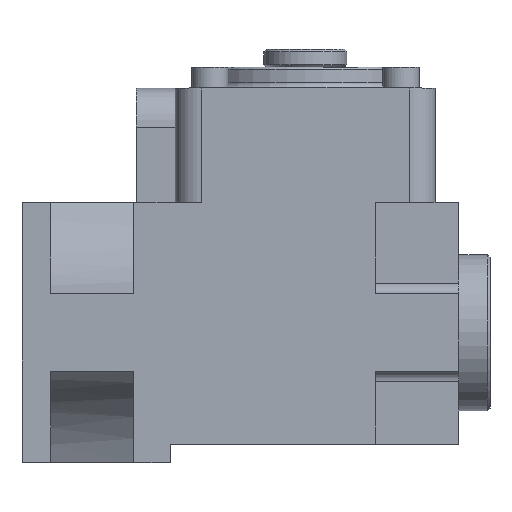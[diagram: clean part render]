
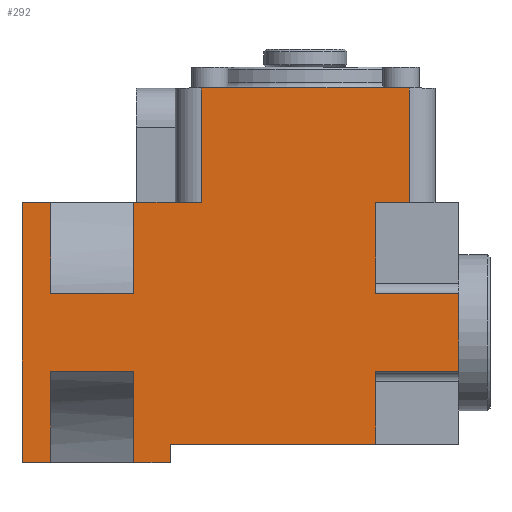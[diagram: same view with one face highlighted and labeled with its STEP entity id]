
A CAD part, top view. The second image highlights one B-rep face of the part: STEP entity #292.
In plain terms, the highlighted planar face has unit normal (0, 0, 1).
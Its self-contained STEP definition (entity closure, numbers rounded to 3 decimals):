
#292 = ADVANCED_FACE( '', ( #692 ), #693, .F. );
#692 = FACE_OUTER_BOUND( '', #1217, .T. );
#693 = PLANE( '', #1218 );
#1217 = EDGE_LOOP( '', ( #2040, #2041, #2042, #2043, #2044, #2045, #2046, #2047, #2048, #2049, #2050, #2051, #2052, #2053, #2054, #2055, #2056, #2057, #2058, #2059, #2060, #2061 ) );
#1218 = AXIS2_PLACEMENT_3D( '', #2062, #2063, #2064 );
#2040 = ORIENTED_EDGE( '', *, *, #2937, .T. );
#2041 = ORIENTED_EDGE( '', *, *, #3016, .T. );
#2042 = ORIENTED_EDGE( '', *, *, #2974, .T. );
#2043 = ORIENTED_EDGE( '', *, *, #2965, .F. );
#2044 = ORIENTED_EDGE( '', *, *, #2933, .T. );
#2045 = ORIENTED_EDGE( '', *, *, #3017, .T. );
#2046 = ORIENTED_EDGE( '', *, *, #3018, .F. );
#2047 = ORIENTED_EDGE( '', *, *, #3019, .F. );
#2048 = ORIENTED_EDGE( '', *, *, #3020, .F. );
#2049 = ORIENTED_EDGE( '', *, *, #2907, .T. );
#2050 = ORIENTED_EDGE( '', *, *, #3021, .F. );
#2051 = ORIENTED_EDGE( '', *, *, #3022, .F. );
#2052 = ORIENTED_EDGE( '', *, *, #3023, .F. );
#2053 = ORIENTED_EDGE( '', *, *, #3024, .F. );
#2054 = ORIENTED_EDGE( '', *, *, #2946, .T. );
#2055 = ORIENTED_EDGE( '', *, *, #3025, .F. );
#2056 = ORIENTED_EDGE( '', *, *, #3026, .F. );
#2057 = ORIENTED_EDGE( '', *, *, #2842, .F. );
#2058 = ORIENTED_EDGE( '', *, *, #2817, .T. );
#2059 = ORIENTED_EDGE( '', *, *, #2864, .F. );
#2060 = ORIENTED_EDGE( '', *, *, #2998, .F. );
#2061 = ORIENTED_EDGE( '', *, *, #3027, .T. );
#2062 = CARTESIAN_POINT( '', ( 84., 25., 25. ) );
#2063 = DIRECTION( '', ( 0., 0., -1. ) );
#2064 = DIRECTION( '', ( -1., 0., 0. ) );
#2817 = EDGE_CURVE( '', #3330, #3334, #3336, .T. );
#2842 = EDGE_CURVE( '', #3330, #3377, #3378, .T. );
#2864 = EDGE_CURVE( '', #3414, #3334, #3416, .T. );
#2907 = EDGE_CURVE( '', #3481, #3483, #3485, .T. );
#2933 = EDGE_CURVE( '', #3527, #3525, #3528, .T. );
#2937 = EDGE_CURVE( '', #3535, #3533, #3536, .T. );
#2946 = EDGE_CURVE( '', #3551, #3549, #3552, .T. );
#2965 = EDGE_CURVE( '', #3527, #3578, #3579, .T. );
#2974 = EDGE_CURVE( '', #3593, #3578, #3594, .T. );
#2998 = EDGE_CURVE( '', #3625, #3414, #3627, .T. );
#3016 = EDGE_CURVE( '', #3533, #3593, #3653, .T. );
#3017 = EDGE_CURVE( '', #3525, #3654, #3655, .T. );
#3018 = EDGE_CURVE( '', #3656, #3654, #3657, .T. );
#3019 = EDGE_CURVE( '', #3658, #3656, #3659, .T. );
#3020 = EDGE_CURVE( '', #3481, #3658, #3660, .T. );
#3021 = EDGE_CURVE( '', #3661, #3483, #3662, .T. );
#3022 = EDGE_CURVE( '', #3663, #3661, #3664, .T. );
#3023 = EDGE_CURVE( '', #3665, #3663, #3666, .T. );
#3024 = EDGE_CURVE( '', #3551, #3665, #3667, .T. );
#3025 = EDGE_CURVE( '', #3668, #3549, #3669, .T. );
#3026 = EDGE_CURVE( '', #3377, #3668, #3670, .T. );
#3027 = EDGE_CURVE( '', #3625, #3535, #3671, .T. );
#3330 = VERTEX_POINT( '', #4043 );
#3334 = VERTEX_POINT( '', #4049 );
#3336 = LINE( '', #4051, #4052 );
#3377 = VERTEX_POINT( '', #4099 );
#3378 = LINE( '', #4100, #4101 );
#3414 = VERTEX_POINT( '', #4152 );
#3416 = LINE( '', #4154, #4155 );
#3481 = VERTEX_POINT( '', #4245 );
#3483 = VERTEX_POINT( '', #4247 );
#3485 = LINE( '', #4250, #4251 );
#3525 = VERTEX_POINT( '', #4306 );
#3527 = VERTEX_POINT( '', #4309 );
#3528 = LINE( '', #4310, #4311 );
#3533 = VERTEX_POINT( '', #4318 );
#3535 = VERTEX_POINT( '', #4321 );
#3536 = LINE( '', #4322, #4323 );
#3549 = VERTEX_POINT( '', #4340 );
#3551 = VERTEX_POINT( '', #4343 );
#3552 = LINE( '', #4344, #4345 );
#3578 = VERTEX_POINT( '', #4382 );
#3579 = LINE( '', #4383, #4384 );
#3593 = VERTEX_POINT( '', #4398 );
#3594 = LINE( '', #4399, #4400 );
#3625 = VERTEX_POINT( '', #4438 );
#3627 = LINE( '', #4440, #4441 );
#3653 = LINE( '', #4476, #4477 );
#3654 = VERTEX_POINT( '', #4478 );
#3655 = LINE( '', #4479, #4480 );
#3656 = VERTEX_POINT( '', #4481 );
#3657 = LINE( '', #4482, #4483 );
#3658 = VERTEX_POINT( '', #4484 );
#3659 = LINE( '', #4485, #4486 );
#3660 = LINE( '', #4487, #4488 );
#3661 = VERTEX_POINT( '', #4489 );
#3662 = LINE( '', #4490, #4491 );
#3663 = VERTEX_POINT( '', #4492 );
#3664 = LINE( '', #4493, #4494 );
#3665 = VERTEX_POINT( '', #4495 );
#3666 = LINE( '', #4496, #4497 );
#3667 = LINE( '', #4498, #4499 );
#3668 = VERTEX_POINT( '', #4500 );
#3669 = LINE( '', #4501, #4502 );
#3670 = LINE( '', #4503, #4504 );
#3671 = LINE( '', #4505, #4506 );
#4043 = CARTESIAN_POINT( '', ( 68., 25., 25. ) );
#4049 = CARTESIAN_POINT( '', ( 74.5, 25., 25. ) );
#4051 = CARTESIAN_POINT( '', ( 84., 25., 25. ) );
#4052 = VECTOR( '', #4873, 1000. );
#4099 = CARTESIAN_POINT( '', ( 68., 7.5, 25. ) );
#4100 = CARTESIAN_POINT( '', ( 68., 25., 25. ) );
#4101 = VECTOR( '', #4913, 1000. );
#4152 = CARTESIAN_POINT( '', ( 74.5, 47., 25. ) );
#4154 = CARTESIAN_POINT( '', ( 74.5, 47., 25. ) );
#4155 = VECTOR( '', #4935, 1000. );
#4245 = CARTESIAN_POINT( '', ( 21.5, -7.5, 25. ) );
#4247 = CARTESIAN_POINT( '', ( 21.5, -25., 25. ) );
#4250 = CARTESIAN_POINT( '', ( 21.5, 25., 25. ) );
#4251 = VECTOR( '', #4980, 1000. );
#4306 = CARTESIAN_POINT( '', ( 0., 25., 25. ) );
#4309 = CARTESIAN_POINT( '', ( 5.5, 25., 25. ) );
#4310 = CARTESIAN_POINT( '', ( 84., 25., 25. ) );
#4311 = VECTOR( '', #5009, 1000. );
#4318 = CARTESIAN_POINT( '', ( 21.5, 25., 25. ) );
#4321 = CARTESIAN_POINT( '', ( 34.5, 25., 25. ) );
#4322 = CARTESIAN_POINT( '', ( 84., 25., 25. ) );
#4323 = VECTOR( '', #5013, 1000. );
#4340 = CARTESIAN_POINT( '', ( 84., -7.5, 25. ) );
#4343 = CARTESIAN_POINT( '', ( 68., -7.5, 25. ) );
#4344 = CARTESIAN_POINT( '', ( 68., -7.5, 25. ) );
#4345 = VECTOR( '', #5025, 1000. );
#4382 = CARTESIAN_POINT( '', ( 5.5, 7.5, 25. ) );
#4383 = CARTESIAN_POINT( '', ( 5.5, 25., 25. ) );
#4384 = VECTOR( '', #5043, 1000. );
#4398 = CARTESIAN_POINT( '', ( 21.5, 7.5, 25. ) );
#4399 = CARTESIAN_POINT( '', ( 21.5, 7.5, 25. ) );
#4400 = VECTOR( '', #5062, 1000. );
#4438 = CARTESIAN_POINT( '', ( 34.5, 47., 25. ) );
#4440 = CARTESIAN_POINT( '', ( 34.5, 47., 25. ) );
#4441 = VECTOR( '', #5097, 1000. );
#4476 = CARTESIAN_POINT( '', ( 21.5, 25., 25. ) );
#4477 = VECTOR( '', #5116, 1000. );
#4478 = CARTESIAN_POINT( '', ( 0., -25., 25. ) );
#4479 = CARTESIAN_POINT( '', ( 0., 25., 25. ) );
#4480 = VECTOR( '', #5117, 1000. );
#4481 = CARTESIAN_POINT( '', ( 5.5, -25., 25. ) );
#4482 = CARTESIAN_POINT( '', ( 84., -25., 25. ) );
#4483 = VECTOR( '', #5118, 1000. );
#4484 = CARTESIAN_POINT( '', ( 5.5, -7.5, 25. ) );
#4485 = CARTESIAN_POINT( '', ( 5.5, 25., 25. ) );
#4486 = VECTOR( '', #5119, 1000. );
#4487 = CARTESIAN_POINT( '', ( 21.5, -7.5, 25. ) );
#4488 = VECTOR( '', #5120, 1000. );
#4489 = CARTESIAN_POINT( '', ( 28.5, -25., 25. ) );
#4490 = CARTESIAN_POINT( '', ( 84., -25., 25. ) );
#4491 = VECTOR( '', #5121, 1000. );
#4492 = CARTESIAN_POINT( '', ( 28.5, -21.5, 25. ) );
#4493 = CARTESIAN_POINT( '', ( 28.5, -21.5, 25. ) );
#4494 = VECTOR( '', #5122, 1000. );
#4495 = CARTESIAN_POINT( '', ( 68., -21.5, 25. ) );
#4496 = CARTESIAN_POINT( '', ( 84., -21.5, 25. ) );
#4497 = VECTOR( '', #5123, 1000. );
#4498 = CARTESIAN_POINT( '', ( 68., 25., 25. ) );
#4499 = VECTOR( '', #5124, 1000. );
#4500 = CARTESIAN_POINT( '', ( 84., 7.5, 25. ) );
#4501 = CARTESIAN_POINT( '', ( 84., 25., 25. ) );
#4502 = VECTOR( '', #5125, 1000. );
#4503 = CARTESIAN_POINT( '', ( 68., 7.5, 25. ) );
#4504 = VECTOR( '', #5126, 1000. );
#4505 = CARTESIAN_POINT( '', ( 34.5, 47., 25. ) );
#4506 = VECTOR( '', #5127, 1000. );
#4873 = DIRECTION( '', ( 1., 0., 0. ) );
#4913 = DIRECTION( '', ( 0., -1., 0. ) );
#4935 = DIRECTION( '', ( 0., -1., 0. ) );
#4980 = DIRECTION( '', ( 0., -1., 0. ) );
#5009 = DIRECTION( '', ( -1., 0., 0. ) );
#5013 = DIRECTION( '', ( -1., 0., 0. ) );
#5025 = DIRECTION( '', ( 1., 0., 0. ) );
#5043 = DIRECTION( '', ( 0., -1., 0. ) );
#5062 = DIRECTION( '', ( -1., 0., 0. ) );
#5097 = DIRECTION( '', ( 1., 0., 0. ) );
#5116 = DIRECTION( '', ( 0., -1., 0. ) );
#5117 = DIRECTION( '', ( 0., -1., 0. ) );
#5118 = DIRECTION( '', ( -1., 0., 0. ) );
#5119 = DIRECTION( '', ( 0., -1., 0. ) );
#5120 = DIRECTION( '', ( -1., 0., 0. ) );
#5121 = DIRECTION( '', ( -1., 0., 0. ) );
#5122 = DIRECTION( '', ( 0., -1., 0. ) );
#5123 = DIRECTION( '', ( -1., 0., 0. ) );
#5124 = DIRECTION( '', ( 0., -1., 0. ) );
#5125 = DIRECTION( '', ( 0., -1., 0. ) );
#5126 = DIRECTION( '', ( 1., 0., 0. ) );
#5127 = DIRECTION( '', ( 0., -1., 0. ) );
